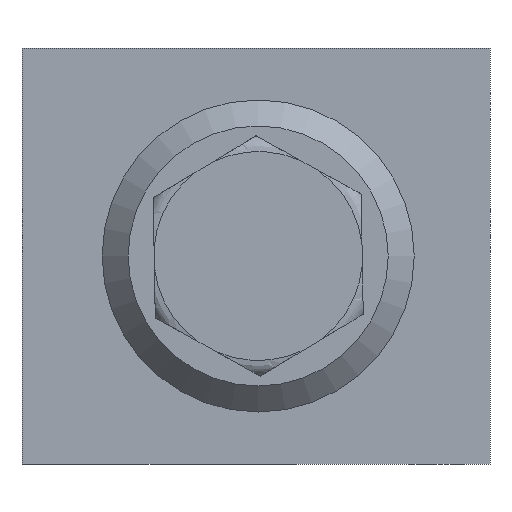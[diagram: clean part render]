
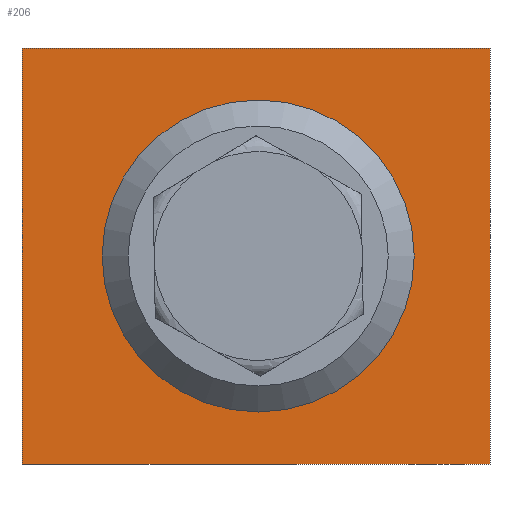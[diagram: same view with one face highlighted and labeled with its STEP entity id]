
A CAD part, left-side view. The second image highlights one B-rep face of the part: STEP entity #206.
In plain terms, the highlighted planar face has unit normal (-1, 0, 0).
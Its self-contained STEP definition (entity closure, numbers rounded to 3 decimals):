
#206=ADVANCED_FACE('',(#512,#513),#290,.F.);
#290=PLANE('',#1469);
#328=LINE('',#1983,#416);
#332=LINE('',#2002,#420);
#333=LINE('',#2004,#421);
#334=LINE('',#2006,#422);
#416=VECTOR('',#1610,1.);
#420=VECTOR('',#1626,1.);
#421=VECTOR('',#1627,1.);
#422=VECTOR('',#1628,1.);
#512=FACE_BOUND('',#572,.T.);
#513=FACE_BOUND('',#573,.T.);
#572=EDGE_LOOP('',(#689));
#573=EDGE_LOOP('',(#690,#691,#692,#693));
#689=ORIENTED_EDGE('',*,*,#1218,.F.);
#690=ORIENTED_EDGE('',*,*,#1210,.T.);
#691=ORIENTED_EDGE('',*,*,#1219,.F.);
#692=ORIENTED_EDGE('',*,*,#1220,.F.);
#693=ORIENTED_EDGE('',*,*,#1221,.T.);
#1069=VERTEX_POINT('',#1984);
#1070=VERTEX_POINT('',#1985);
#1077=VERTEX_POINT('',#2001);
#1078=VERTEX_POINT('',#2003);
#1079=VERTEX_POINT('',#2005);
#1210=EDGE_CURVE('',#1069,#1070,#328,.T.);
#1218=EDGE_CURVE('',#1077,#1077,#1408,.T.);
#1219=EDGE_CURVE('',#1078,#1070,#332,.T.);
#1220=EDGE_CURVE('',#1079,#1078,#333,.T.);
#1221=EDGE_CURVE('',#1079,#1069,#334,.T.);
#1408=CIRCLE('',#1468,30.);
#1468=AXIS2_PLACEMENT_3D('',#2000,#1624,#1625);
#1469=AXIS2_PLACEMENT_3D('',#2007,#1629,#1630);
#1610=DIRECTION('',(0.,-1.,0.));
#1624=DIRECTION('',(-1.,0.,0.));
#1625=DIRECTION('',(0.,-1.,0.));
#1626=DIRECTION('',(0.,0.,-1.));
#1627=DIRECTION('',(0.,-1.,0.));
#1628=DIRECTION('',(0.,0.,-1.));
#1629=DIRECTION('',(1.,0.,0.));
#1630=DIRECTION('',(0.,0.,1.));
#1983=CARTESIAN_POINT('',(-62.5,45.,0.));
#1984=CARTESIAN_POINT('',(-62.5,45.,0.));
#1985=CARTESIAN_POINT('',(-62.5,-45.,0.));
#2000=CARTESIAN_POINT('',(-62.5,-0.421,40.));
#2001=CARTESIAN_POINT('',(-62.5,-30.421,40.));
#2002=CARTESIAN_POINT('',(-62.5,-45.,80.));
#2003=CARTESIAN_POINT('',(-62.5,-45.,80.));
#2004=CARTESIAN_POINT('',(-62.5,45.,80.));
#2005=CARTESIAN_POINT('',(-62.5,45.,80.));
#2006=CARTESIAN_POINT('',(-62.5,45.,80.));
#2007=CARTESIAN_POINT('',(-62.5,45.,80.));
